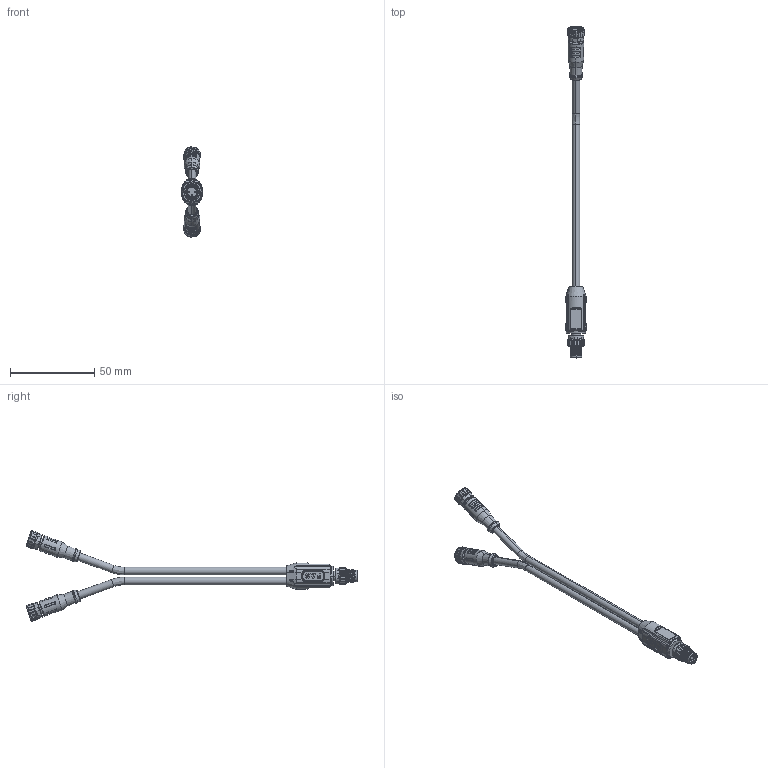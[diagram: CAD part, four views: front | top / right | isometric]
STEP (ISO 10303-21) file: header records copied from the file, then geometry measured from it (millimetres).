
FILE_DESCRIPTION (( 'STEP AP203' ), '1' );
FILE_NAME ('63D341-XXX.STEP', '2024-03-15T07:03:20', ( '' ), ( '' ), 'SwSTEP 2.0', 'SolidWorks 2016', '' );
FILE_SCHEMA (( 'CONFIG_CONTROL_DESIGN' ));
Length unit declared in the file: millimetre
Products named in the file (1): 63D341-XXX
Bounding box: 12 x 197.44 x 53.58 mm (x, y, z)
Volume: 11908.2 mm3; surface area: 9339.1 mm2
Topology: 1 solids, 6 shells, 1553 faces, 4542 edges, 3054 vertices
Faces by surface type: plane 612, cylinder 532, bspline 211, cone 194, torus 4
Entity records: 66368 total; most frequent: CARTESIAN_POINT 30486, ORIENTED_EDGE 9084, DIRECTION 5201, EDGE_CURVE 4542, VERTEX_POINT 3054, B_SPLINE_CURVE_WITH_KNOTS 2509, AXIS2_PLACEMENT_3D 1918, EDGE_LOOP 1620
